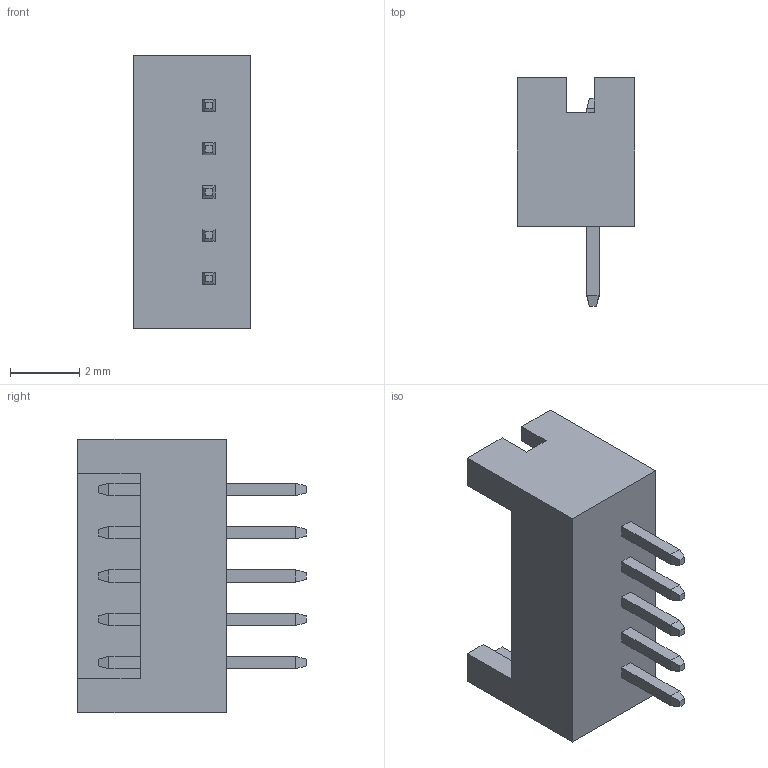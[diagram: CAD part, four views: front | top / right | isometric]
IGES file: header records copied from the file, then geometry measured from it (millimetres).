
Global section: file name: T:/3DWEB公開/NCW/DF13/DF13-P-DSA/DF13-5P-1.25DSA, ; native system: SolidDesigner 12.00  10-Sep-2003; preprocessor: OneSpace IGES_3D V1.0; author: Unknown; organization: Unknown; date: 20070323.082839; units: millimetre
Bounding box: 3.4 x 6.6 x 7.9 mm (x, y, z)
Volume: 61.8 mm3; surface area: 217.4 mm2
Topology: 1 solids, 1 shells, 112 faces, 260 edges, 160 vertices
Faces by surface type: bspline 112
